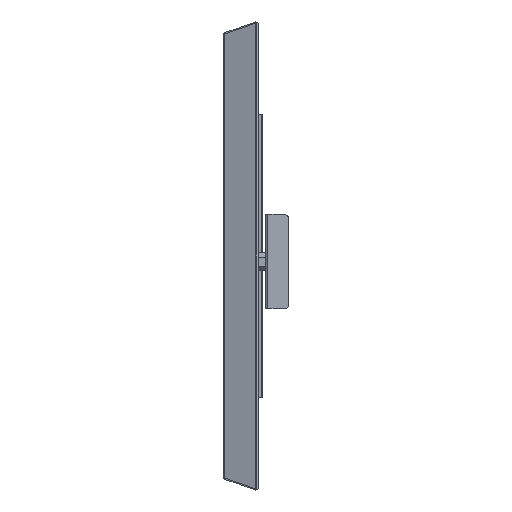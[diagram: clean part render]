
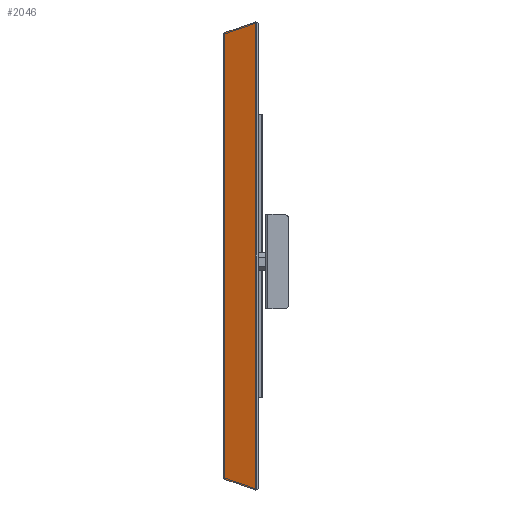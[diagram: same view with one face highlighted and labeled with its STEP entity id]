
A CAD part, left-side view. The second image highlights one B-rep face of the part: STEP entity #2046.
In plain terms, the highlighted planar face has unit normal (-0.946, 0.326, 0).
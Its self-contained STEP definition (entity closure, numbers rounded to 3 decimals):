
#154 = VECTOR ( 'NONE', #1869, 1000. ) ;
#256 = EDGE_CURVE ( 'NONE', #935, #579, #2600, .T. ) ;
#442 = VECTOR ( 'NONE', #3630, 1000. ) ;
#444 = DIRECTION ( 'NONE',  ( -0.31, -0.899, -0.31 ) ) ;
#579 = VERTEX_POINT ( 'NONE', #750 ) ;
#698 = AXIS2_PLACEMENT_3D ( 'NONE', #2518, #1802, #3846 ) ;
#750 = CARTESIAN_POINT ( 'NONE',  ( -949.427, 3.115, 247.427 ) ) ;
#850 = LINE ( 'NONE', #2162, #2477 ) ;
#935 = VERTEX_POINT ( 'NONE', #2145 ) ;
#1015 = EDGE_CURVE ( 'NONE', #1614, #579, #2942, .T. ) ;
#1027 = EDGE_CURVE ( 'NONE', #1614, #2498, #3952, .T. ) ;
#1102 = PLANE ( 'NONE',  #698 ) ;
#1121 = FACE_OUTER_BOUND ( 'NONE', #4210, .T. ) ;
#1372 = ORIENTED_EDGE ( 'NONE', *, *, #1015, .F. ) ;
#1570 = CARTESIAN_POINT ( 'NONE',  ( -949.427, 3.115, -248.5 ) ) ;
#1614 = VERTEX_POINT ( 'NONE', #3434 ) ;
#1639 = ORIENTED_EDGE ( 'NONE', *, *, #1027, .T. ) ;
#1802 = DIRECTION ( 'NONE',  ( -0.946, 0.326, 0. ) ) ;
#1869 = DIRECTION ( 'NONE',  ( 0., 0., -1. ) ) ;
#2046 = ADVANCED_FACE ( 'NONE', ( #1121 ), #1102, .T. ) ;
#2110 = ORIENTED_EDGE ( 'NONE', *, *, #256, .T. ) ;
#2145 = CARTESIAN_POINT ( 'NONE',  ( -949.427, 3.115, -247.427 ) ) ;
#2162 = CARTESIAN_POINT ( 'NONE',  ( -950.5, 0., -248.5 ) ) ;
#2477 = VECTOR ( 'NONE', #444, 1000. ) ;
#2498 = VERTEX_POINT ( 'NONE', #3202 ) ;
#2503 = ORIENTED_EDGE ( 'NONE', *, *, #3615, .T. ) ;
#2518 = CARTESIAN_POINT ( 'NONE',  ( -950.5, 0., -248.5 ) ) ;
#2600 = LINE ( 'NONE', #1570, #442 ) ;
#2942 = LINE ( 'NONE', #4286, #3789 ) ;
#3202 = CARTESIAN_POINT ( 'NONE',  ( -938.375, 35.213, -236.375 ) ) ;
#3434 = CARTESIAN_POINT ( 'NONE',  ( -938.375, 35.213, 236.375 ) ) ;
#3549 = DIRECTION ( 'NONE',  ( -0.31, -0.899, 0.31 ) ) ;
#3615 = EDGE_CURVE ( 'NONE', #2498, #935, #850, .T. ) ;
#3630 = DIRECTION ( 'NONE',  ( 0., 0., 1. ) ) ;
#3789 = VECTOR ( 'NONE', #3549, 1000. ) ;
#3846 = DIRECTION ( 'NONE',  ( -0.326, -0.946, 0. ) ) ;
#3909 = CARTESIAN_POINT ( 'NONE',  ( -938.375, 35.213, -235.76 ) ) ;
#3952 = LINE ( 'NONE', #3909, #154 ) ;
#4210 = EDGE_LOOP ( 'NONE', ( #1372, #1639, #2503, #2110 ) ) ;
#4286 = CARTESIAN_POINT ( 'NONE',  ( -950.5, 0., 248.5 ) ) ;
